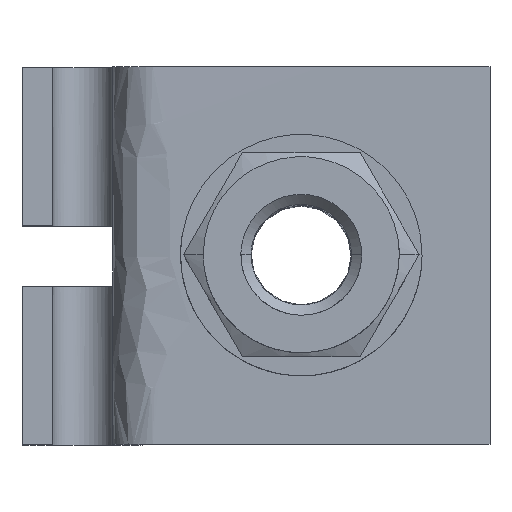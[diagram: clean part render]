
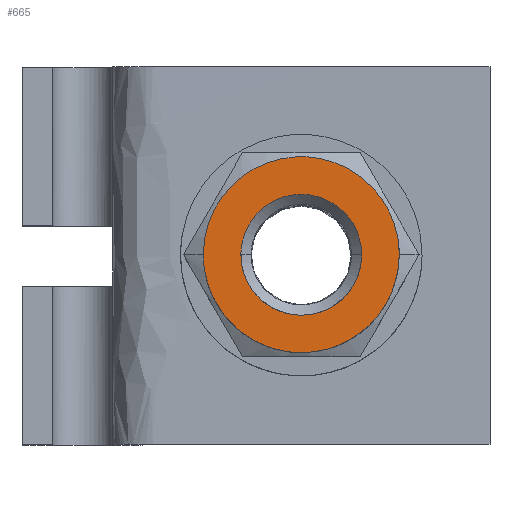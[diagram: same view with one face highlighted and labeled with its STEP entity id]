
A CAD part, top view. The second image highlights one B-rep face of the part: STEP entity #665.
In plain terms, the highlighted planar face has unit normal (0, 0, 1).
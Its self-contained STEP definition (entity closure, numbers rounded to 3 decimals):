
#30=FACE_BOUND($,#797,.T.);
#111=(
BOUNDED_CURVE()
B_SPLINE_CURVE(2,(#3117,#3118,#3119,#3120,#3121,#3122,#3123,#3124,#3125),
.UNSPECIFIED.,.T.,.F.)
B_SPLINE_CURVE_WITH_KNOTS((3,2,2,2,3),(-30.16,-22.62,
-15.08,-7.54,0.),.UNSPECIFIED.)
CURVE()
GEOMETRIC_REPRESENTATION_ITEM()
RATIONAL_B_SPLINE_CURVE((1.,0.707,1.,0.707,1.,0.707,
1.,0.707,1.))
REPRESENTATION_ITEM($)
);
#665=ADVANCED_FACE($,(#728,#30),#1563,.T.);
#728=FACE_OUTER_BOUND($,#796,.T.);
#796=EDGE_LOOP($,(#984));
#797=EDGE_LOOP($,(#985));
#984=ORIENTED_EDGE($,*,*,#1241,.F.);
#985=ORIENTED_EDGE($,*,*,#1240,.F.);
#1240=EDGE_CURVE($,#1466,#1466,#1665,.T.);
#1241=EDGE_CURVE($,#1467,#1467,#111,.T.);
#1466=VERTEX_POINT($,#3127);
#1467=VERTEX_POINT($,#3128);
#1563=PLANE($,#1775);
#1665=B_SPLINE_CURVE_WITH_KNOTS($,3,(#3098,#3099,#3100,#3101,#3102,#3103,
#3104,#3105,#3106,#3107,#3108,#3109,#3110,#3111,#3112,#3113,#3114,#3115,
#3116),.UNSPECIFIED.,.T.,.F.,(4,1,1,1,1,1,1,1,1,1,1,1,1,1,1,1,4),(-18.589,
-17.475,-16.265,-15.055,-13.942,
-12.828,-11.618,-10.408,-9.294,
-8.181,-6.971,-5.761,-4.647,
-3.534,-2.324,-1.113,0.),.UNSPECIFIED.);
#1775=AXIS2_PLACEMENT_3D($,#3126,#1809,$);
#1809=DIRECTION($,(0.,0.,1.));
#3098=CARTESIAN_POINT($,(4.,0.,27.031));
#3099=CARTESIAN_POINT($,(4.,0.502,27.031));
#3100=CARTESIAN_POINT($,(3.801,1.549,27.031));
#3101=CARTESIAN_POINT($,(2.909,2.909,27.031));
#3102=CARTESIAN_POINT($,(1.549,3.801,27.031));
#3103=CARTESIAN_POINT($,(0.,4.095,27.031));
#3104=CARTESIAN_POINT($,(-1.549,3.801,27.031));
#3105=CARTESIAN_POINT($,(-2.909,2.909,27.031));
#3106=CARTESIAN_POINT($,(-3.801,1.549,27.031));
#3107=CARTESIAN_POINT($,(-4.095,0.,27.031));
#3108=CARTESIAN_POINT($,(-3.801,-1.549,27.031));
#3109=CARTESIAN_POINT($,(-2.908,-2.909,27.031));
#3110=CARTESIAN_POINT($,(-1.549,-3.801,27.031));
#3111=CARTESIAN_POINT($,(0.,-4.096,27.031));
#3112=CARTESIAN_POINT($,(1.549,-3.801,27.031));
#3113=CARTESIAN_POINT($,(2.909,-2.909,27.031));
#3114=CARTESIAN_POINT($,(3.801,-1.549,27.031));
#3115=CARTESIAN_POINT($,(4.,-0.502,27.031));
#3116=CARTESIAN_POINT($,(4.,0.,27.031));
#3117=CARTESIAN_POINT($,(-6.491,-0.007,27.031));
#3118=CARTESIAN_POINT($,(-6.497,6.484,27.031));
#3119=CARTESIAN_POINT($,(-0.006,6.491,27.031));
#3120=CARTESIAN_POINT($,(6.484,6.497,27.031));
#3121=CARTESIAN_POINT($,(6.491,0.006,27.031));
#3122=CARTESIAN_POINT($,(6.497,-6.484,27.031));
#3123=CARTESIAN_POINT($,(0.007,-6.491,27.031));
#3124=CARTESIAN_POINT($,(-6.484,-6.497,27.031));
#3125=CARTESIAN_POINT($,(-6.491,-0.007,27.031));
#3126=CARTESIAN_POINT($,(-6.621,6.621,27.031));
#3127=CARTESIAN_POINT($,(4.,0.,27.031));
#3128=CARTESIAN_POINT($,(-6.491,-0.007,27.031));
